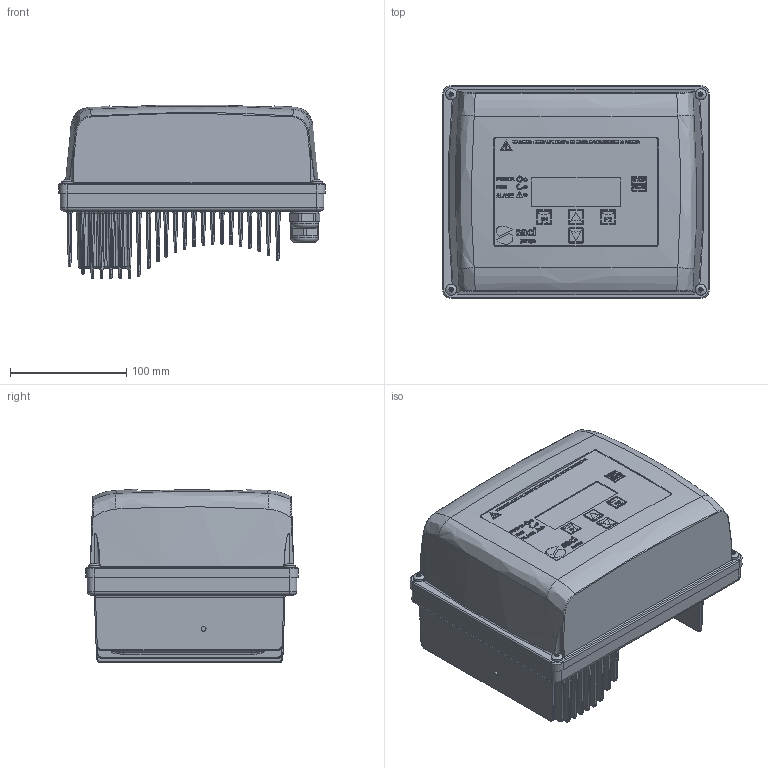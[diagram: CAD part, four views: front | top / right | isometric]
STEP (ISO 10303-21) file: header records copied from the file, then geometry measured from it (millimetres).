
FILE_DESCRIPTION(/* description */ ('Unknown'),/* implementation_level */ '2;1');
FILE_NAME(/* name */ '0100000000007',/* time_stamp */ '2020-01-24T08:16:25+01:00',/* author */ ('Unknown'),/* organization */ ('Unknown'),/* preprocessor_version */ 'ST-DEVELOPER v16.7',/* originating_system */ 'Solid Edge',/* authorisation */ 'Unknown');
FILE_SCHEMA (('AUTOMOTIVE_DESIGN {1 0 10303 214 3 1 1}'));
Length unit declared in the file: millimetre
Products named in the file (1): Part1
Bounding box: 229.5 x 183 x 149.35 mm (x, y, z)
Volume: 3567172.8 mm3; surface area: 459082.5 mm2
Topology: 1 solids, 31 shells, 2455 faces, 6006 edges, 3763 vertices
Faces by surface type: plane 1214, cylinder 645, bspline 382, torus 94, cone 84, sphere 36
Full cylindrical faces by diameter (mm): 1.5 x3, 1.9 x4, 2 x3, 3 x3, 3.2 x1, 3.6 x4, 4.134 x6, 4.2 x4, 5 x4, 5.5 x6, 6.5 x1, 6.565 x1, 9 x4, 9.5 x4, 10.355 x4, 12.12 x4, 12.285 x1, 12.5 x1, 15 x2, 18 x1, 20 x5, 20.5 x2, 21.429 x2, 24 x8
Entity records: 103465 total; most frequent: CARTESIAN_POINT 31261, ORIENTED_EDGE 11514, DIRECTION 10741, EDGE_CURVE 5757, AXIS2_PLACEMENT_3D 3757, VERTEX_POINT 3707, LINE 3227, VECTOR 3227
